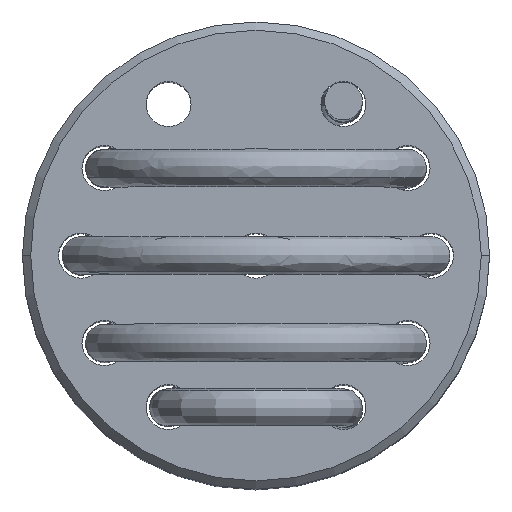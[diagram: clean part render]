
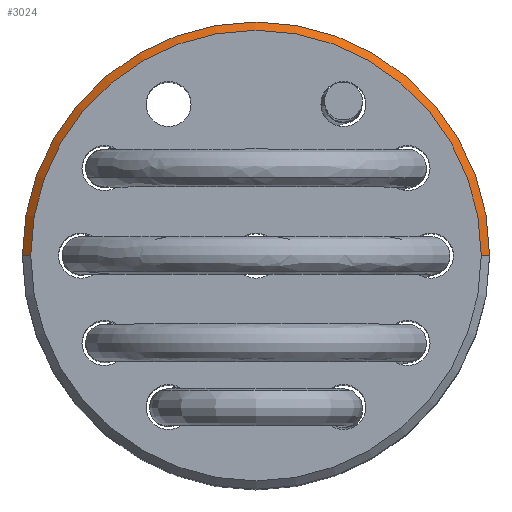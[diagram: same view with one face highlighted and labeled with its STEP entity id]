
A CAD part, top view. The second image highlights one B-rep face of the part: STEP entity #3024.
In plain terms, the highlighted conical face has half-angle 45 degrees and reference radius 4.826 mm.
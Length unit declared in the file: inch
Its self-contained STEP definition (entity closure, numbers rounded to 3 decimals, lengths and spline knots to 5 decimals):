
#18 = ORIENTED_EDGE ( 'NONE', *, *, #4884, .F. ) ;
#30 = DIRECTION ( 'NONE',  ( -0.707, 0., -0.707 ) ) ;
#154 = DIRECTION ( 'NONE',  ( 0., 0., -1. ) ) ;
#215 = CARTESIAN_POINT ( 'NONE',  ( 0.19, 0., 0.197 ) ) ;
#419 = ORIENTED_EDGE ( 'NONE', *, *, #1806, .T. ) ;
#557 = DIRECTION ( 'NONE',  ( 0., 0., -1. ) ) ;
#587 = FACE_OUTER_BOUND ( 'NONE', #1458, .T. ) ;
#657 = VERTEX_POINT ( 'NONE', #2891 ) ;
#797 = CARTESIAN_POINT ( 'NONE',  ( 0.19, 0., 0.197 ) ) ;
#1131 = CARTESIAN_POINT ( 'NONE',  ( -0.197, 0., 0.19 ) ) ;
#1154 = VECTOR ( 'NONE', #2623, 39.37008 ) ;
#1220 = VERTEX_POINT ( 'NONE', #1131 ) ;
#1341 = VERTEX_POINT ( 'NONE', #215 ) ;
#1382 = AXIS2_PLACEMENT_3D ( 'NONE', #3417, #154, #3814 ) ;
#1458 = EDGE_LOOP ( 'NONE', ( #18, #419, #5007, #2586 ) ) ;
#1511 = CARTESIAN_POINT ( 'NONE',  ( 0., 0., 0.197 ) ) ;
#1806 = EDGE_CURVE ( 'NONE', #1341, #657, #3075, .T. ) ;
#2586 = ORIENTED_EDGE ( 'NONE', *, *, #4543, .F. ) ;
#2623 = DIRECTION ( 'NONE',  ( 0.707, 0., -0.707 ) ) ;
#2633 = CARTESIAN_POINT ( 'NONE',  ( 0., 0., 0.197 ) ) ;
#2669 = VERTEX_POINT ( 'NONE', #4684 ) ;
#2891 = CARTESIAN_POINT ( 'NONE',  ( 0.197, 0., 0.19 ) ) ;
#2998 = DIRECTION ( 'NONE',  ( 0., 0., 1. ) ) ;
#3015 = CIRCLE ( 'NONE', #3526, 0.19 ) ;
#3024 = ADVANCED_FACE ( 'NONE', ( #587 ), #3592, .T. ) ;
#3075 = LINE ( 'NONE', #797, #1154 ) ;
#3209 = CIRCLE ( 'NONE', #1382, 0.197 ) ;
#3251 = VECTOR ( 'NONE', #30, 39.37008 ) ;
#3402 = AXIS2_PLACEMENT_3D ( 'NONE', #1511, #557, #3859 ) ;
#3417 = CARTESIAN_POINT ( 'NONE',  ( 0., 0., 0.19 ) ) ;
#3526 = AXIS2_PLACEMENT_3D ( 'NONE', #2633, #2998, #4356 ) ;
#3592 = CONICAL_SURFACE ( 'NONE', #3402, 0.19, 0.785 ) ;
#3631 = LINE ( 'NONE', #4143, #3251 ) ;
#3814 = DIRECTION ( 'NONE',  ( 1., 0., 0. ) ) ;
#3859 = DIRECTION ( 'NONE',  ( -1., 0., 0. ) ) ;
#4143 = CARTESIAN_POINT ( 'NONE',  ( -0.19, 0., 0.197 ) ) ;
#4356 = DIRECTION ( 'NONE',  ( 1., 0., 0. ) ) ;
#4543 = EDGE_CURVE ( 'NONE', #2669, #1220, #3631, .T. ) ;
#4577 = EDGE_CURVE ( 'NONE', #1220, #657, #3209, .T. ) ;
#4684 = CARTESIAN_POINT ( 'NONE',  ( -0.19, 0., 0.197 ) ) ;
#4884 = EDGE_CURVE ( 'NONE', #1341, #2669, #3015, .T. ) ;
#5007 = ORIENTED_EDGE ( 'NONE', *, *, #4577, .F. ) ;
